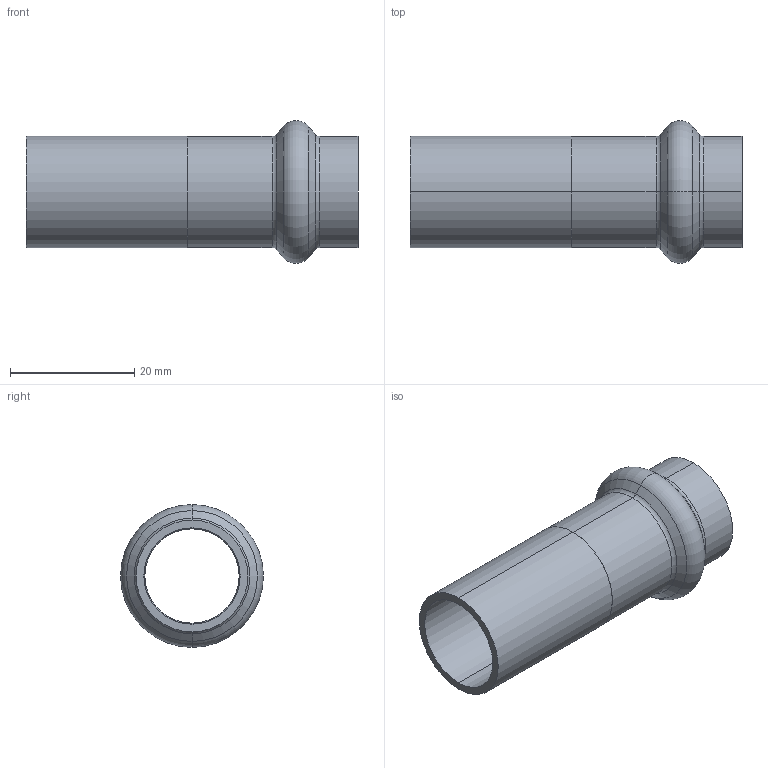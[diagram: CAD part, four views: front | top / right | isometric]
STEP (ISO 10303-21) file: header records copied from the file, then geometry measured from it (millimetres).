
FILE_DESCRIPTION (( 'STEP AP203' ), '1' );
FILE_NAME ('SP5243 18-15.STEP', '2017-04-24T09:03:13', ( '' ), ( '' ), 'SwSTEP 2.0', 'SolidWorks 2016', '' );
FILE_SCHEMA (( 'CONFIG_CONTROL_DESIGN' ));
Length unit declared in the file: millimetre
Products named in the file (1): SP5243 18-15
Bounding box: 53.5 x 23 x 23 mm (x, y, z)
Volume: 3900.5 mm3; surface area: 6100.5 mm2
Topology: 1 solids, 1 shells, 38 faces, 76 edges, 40 vertices
Faces by surface type: torus 12, cylinder 12, cone 12, plane 2
Entity records: 1057 total; most frequent: DIRECTION 206, CARTESIAN_POINT 155, ORIENTED_EDGE 152, AXIS2_PLACEMENT_3D 91, EDGE_CURVE 76, CIRCLE 52, EDGE_LOOP 40, VERTEX_POINT 40
